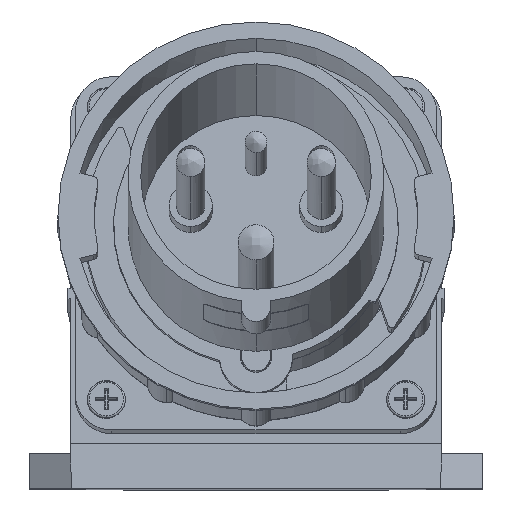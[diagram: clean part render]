
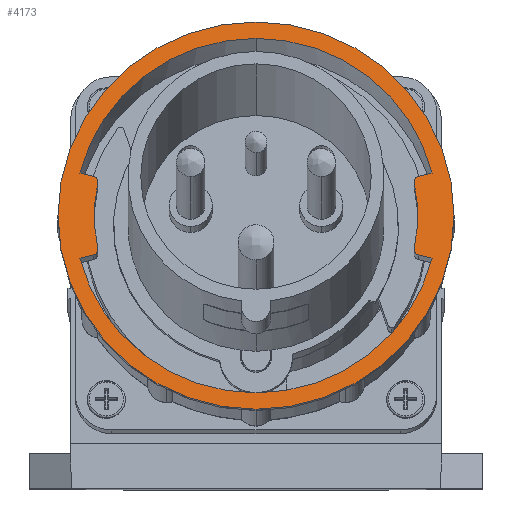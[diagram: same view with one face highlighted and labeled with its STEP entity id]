
A CAD part, top view. The second image highlights one B-rep face of the part: STEP entity #4173.
In plain terms, the highlighted planar face has unit normal (0, 0.208, 0.978).
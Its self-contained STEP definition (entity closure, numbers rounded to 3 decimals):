
#37 = CARTESIAN_POINT ( 'NONE',  ( 43.571, 66.053, 39.131 ) ) ;
#38 = CARTESIAN_POINT ( 'NONE',  ( 43.571, 84.224, 35.272 ) ) ;
#390 = CARTESIAN_POINT ( 'NONE',  ( -43.571, 84.224, 35.272 ) ) ;
#391 = CARTESIAN_POINT ( 'NONE',  ( -43.571, 66.053, 39.131 ) ) ;
#392 = CARTESIAN_POINT ( 'NONE',  ( -44.678, 85.955, 34.904 ) ) ;
#393 = CARTESIAN_POINT ( 'NONE',  ( 48.487, 86.877, 34.708 ) ) ;
#394 = CARTESIAN_POINT ( 'NONE',  ( 44.678, 85.955, 34.904 ) ) ;
#395 = CARTESIAN_POINT ( 'NONE',  ( 44.678, 64.323, 39.498 ) ) ;
#396 = CARTESIAN_POINT ( 'NONE',  ( 48.487, 63.401, 39.694 ) ) ;
#397 = CARTESIAN_POINT ( 'NONE',  ( -44.678, 64.323, 39.498 ) ) ;
#914 = CARTESIAN_POINT ( 'NONE',  ( 0., 75.139, 37.201 ) ) ;
#916 = DIRECTION ( 'NONE',  ( 0., 0.208, 0.978 ) ) ;
#918 = DIRECTION ( 'NONE',  ( 0., -0.978, 0.208 ) ) ;
#1093 = EDGE_LOOP ( 'NONE', ( #3452, #3454, #3453, #3455, #3456, #3458, #3457, #3459, #3460, #3462, #3461, #3463, #3464, #3465 ) ) ;
#1095 = EDGE_LOOP ( 'NONE', ( #3467, #3466 ) ) ;
#1637 = VERTEX_POINT ( 'NONE', #6103 ) ;
#1638 = VERTEX_POINT ( 'NONE', #6104 ) ;
#1641 = VERTEX_POINT ( 'NONE', #6107 ) ;
#1642 = VERTEX_POINT ( 'NONE', #6108 ) ;
#1645 = VERTEX_POINT ( 'NONE', #6111 ) ;
#1646 = VERTEX_POINT ( 'NONE', #6112 ) ;
#1902 = VERTEX_POINT ( 'NONE', #37 ) ;
#1903 = VERTEX_POINT ( 'NONE', #38 ) ;
#2255 = VERTEX_POINT ( 'NONE', #390 ) ;
#2256 = VERTEX_POINT ( 'NONE', #391 ) ;
#2257 = VERTEX_POINT ( 'NONE', #392 ) ;
#2258 = VERTEX_POINT ( 'NONE', #393 ) ;
#2259 = VERTEX_POINT ( 'NONE', #394 ) ;
#2260 = VERTEX_POINT ( 'NONE', #395 ) ;
#2261 = VERTEX_POINT ( 'NONE', #396 ) ;
#2262 = VERTEX_POINT ( 'NONE', #397 ) ;
#3353 = EDGE_CURVE ( 'NONE', #1646, #1645, #4652, .T. ) ;
#3452 = ORIENTED_EDGE ( 'NONE', *, *, #4067, .F. ) ;
#3453 = ORIENTED_EDGE ( 'NONE', *, *, #4068, .F. ) ;
#3454 = ORIENTED_EDGE ( 'NONE', *, *, #4066, .T. ) ;
#3455 = ORIENTED_EDGE ( 'NONE', *, *, #3703, .F. ) ;
#3456 = ORIENTED_EDGE ( 'NONE', *, *, #4069, .F. ) ;
#3457 = ORIENTED_EDGE ( 'NONE', *, *, #4071, .T. ) ;
#3458 = ORIENTED_EDGE ( 'NONE', *, *, #4070, .F. ) ;
#3459 = ORIENTED_EDGE ( 'NONE', *, *, #16178, .F. ) ;
#3460 = ORIENTED_EDGE ( 'NONE', *, *, #4072, .T. ) ;
#3461 = ORIENTED_EDGE ( 'NONE', *, *, #4074, .F. ) ;
#3462 = ORIENTED_EDGE ( 'NONE', *, *, #4073, .F. ) ;
#3463 = ORIENTED_EDGE ( 'NONE', *, *, #3695, .F. ) ;
#3464 = ORIENTED_EDGE ( 'NONE', *, *, #4075, .F. ) ;
#3465 = ORIENTED_EDGE ( 'NONE', *, *, #4077, .T. ) ;
#3466 = ORIENTED_EDGE ( 'NONE', *, *, #4065, .T. ) ;
#3467 = ORIENTED_EDGE ( 'NONE', *, *, #3353, .T. ) ;
#3695 = EDGE_CURVE ( 'NONE', #1641, #1642, #4682, .T. ) ;
#3703 = EDGE_CURVE ( 'NONE', #1637, #1638, #4686, .T. ) ;
#4065 = EDGE_CURVE ( 'NONE', #1645, #1646, #4771, .T. ) ;
#4066 = EDGE_CURVE ( 'NONE', #2255, #2257, #4772, .T. ) ;
#4067 = EDGE_CURVE ( 'NONE', #2255, #2256, #4773, .T. ) ;
#4068 = EDGE_CURVE ( 'NONE', #1638, #2257, #8168, .T. ) ;
#4069 = EDGE_CURVE ( 'NONE', #2258, #1637, #4774, .T. ) ;
#4070 = EDGE_CURVE ( 'NONE', #2259, #2258, #8174, .T. ) ;
#4071 = EDGE_CURVE ( 'NONE', #2259, #1903, #4775, .T. ) ;
#4072 = EDGE_CURVE ( 'NONE', #1902, #2260, #4776, .T. ) ;
#4073 = EDGE_CURVE ( 'NONE', #2261, #2260, #8183, .T. ) ;
#4074 = EDGE_CURVE ( 'NONE', #1642, #2261, #4777, .T. ) ;
#4075 = EDGE_CURVE ( 'NONE', #2262, #1641, #8189, .T. ) ;
#4077 = EDGE_CURVE ( 'NONE', #2262, #2256, #4778, .T. ) ;
#4173 = ADVANCED_FACE ( 'NONE', ( #17356, #17295 ), #8540, .F. ) ;
#4652 = CIRCLE ( 'NONE', #15780, 54.55 ) ;
#4682 = CIRCLE ( 'NONE', #15653, 49.95 ) ;
#4686 = CIRCLE ( 'NONE', #15642, 49.95 ) ;
#4771 = CIRCLE ( 'NONE', #10341, 54.55 ) ;
#4772 = CIRCLE ( 'NONE', #10345, 1.5 ) ;
#4773 = CIRCLE ( 'NONE', #10337, 44.55 ) ;
#4774 = CIRCLE ( 'NONE', #10336, 49.95 ) ;
#4775 = CIRCLE ( 'NONE', #10333, 1.5 ) ;
#4776 = CIRCLE ( 'NONE', #10335, 1.5 ) ;
#4777 = CIRCLE ( 'NONE', #10331, 49.95 ) ;
#4778 = CIRCLE ( 'NONE', #10540, 1.5 ) ;
#5071 = CIRCLE ( 'NONE', #12527, 44.55 ) ;
#6103 = CARTESIAN_POINT ( 'NONE',  ( 0., 123.999, 26.824 ) ) ;
#6104 = CARTESIAN_POINT ( 'NONE',  ( -48.487, 86.877, 34.708 ) ) ;
#6107 = CARTESIAN_POINT ( 'NONE',  ( -48.487, 63.401, 39.694 ) ) ;
#6108 = CARTESIAN_POINT ( 'NONE',  ( 0., 26.279, 47.579 ) ) ;
#6111 = CARTESIAN_POINT ( 'NONE',  ( 0., 128.499, 25.868 ) ) ;
#6112 = CARTESIAN_POINT ( 'NONE',  ( 0., 21.779, 48.534 ) ) ;
#6521 = CARTESIAN_POINT ( 'NONE',  ( 0., 75.139, 37.201 ) ) ;
#6537 = DIRECTION ( 'NONE',  ( 0., 0.208, 0.978 ) ) ;
#6538 = DIRECTION ( 'NONE',  ( 0., 0.978, -0.208 ) ) ;
#6551 = CARTESIAN_POINT ( 'NONE',  ( 0., 75.139, 37.201 ) ) ;
#6561 = DIRECTION ( 'NONE',  ( 0., 0.208, 0.978 ) ) ;
#6562 = DIRECTION ( 'NONE',  ( 0., -0.978, 0.208 ) ) ;
#8158 = CARTESIAN_POINT ( 'NONE',  ( 0., 75.139, 37.201 ) ) ;
#8159 = DIRECTION ( 'NONE',  ( 0., 0.208, 0.978 ) ) ;
#8160 = DIRECTION ( 'NONE',  ( 0., -0.978, 0.208 ) ) ;
#8161 = CARTESIAN_POINT ( 'NONE',  ( -45.038, 84.53, 35.207 ) ) ;
#8162 = DIRECTION ( 'NONE',  ( 0., 0.208, 0.978 ) ) ;
#8163 = DIRECTION ( 'NONE',  ( 0., 0.978, -0.208 ) ) ;
#8164 = CARTESIAN_POINT ( 'NONE',  ( 0., 75.139, 37.201 ) ) ;
#8165 = DIRECTION ( 'NONE',  ( 0., 0.208, 0.978 ) ) ;
#8166 = DIRECTION ( 'NONE',  ( 0., -0.978, 0.208 ) ) ;
#8167 = CARTESIAN_POINT ( 'NONE',  ( 0., 75.139, 37.201 ) ) ;
#8168 = LINE ( 'NONE', #8169, #10334 ) ;
#8169 = CARTESIAN_POINT ( 'NONE',  ( -43.245, 85.608, 34.978 ) ) ;
#8170 = DIRECTION ( 'NONE',  ( 0.971, -0.235, 0.05 ) ) ;
#8171 = DIRECTION ( 'NONE',  ( 0., 0.208, 0.978 ) ) ;
#8172 = DIRECTION ( 'NONE',  ( 0., -0.978, 0.208 ) ) ;
#8173 = CARTESIAN_POINT ( 'NONE',  ( 45.038, 84.53, 35.207 ) ) ;
#8174 = LINE ( 'NONE', #8175, #10332 ) ;
#8175 = CARTESIAN_POINT ( 'NONE',  ( 43.245, 85.608, 34.978 ) ) ;
#8176 = DIRECTION ( 'NONE',  ( 0.971, 0.235, -0.05 ) ) ;
#8177 = DIRECTION ( 'NONE',  ( 0., 0.208, 0.978 ) ) ;
#8178 = DIRECTION ( 'NONE',  ( 0., 0.978, -0.208 ) ) ;
#8179 = CARTESIAN_POINT ( 'NONE',  ( 45.038, 65.747, 39.196 ) ) ;
#8180 = DIRECTION ( 'NONE',  ( 0., 0.208, 0.978 ) ) ;
#8181 = DIRECTION ( 'NONE',  ( 0., 0.978, -0.208 ) ) ;
#8182 = CARTESIAN_POINT ( 'NONE',  ( 0., 75.139, 37.201 ) ) ;
#8183 = LINE ( 'NONE', #8184, #10330 ) ;
#8184 = CARTESIAN_POINT ( 'NONE',  ( 43.245, 64.67, 39.425 ) ) ;
#8185 = DIRECTION ( 'NONE',  ( -0.971, 0.235, -0.05 ) ) ;
#8186 = DIRECTION ( 'NONE',  ( 0., 0.208, 0.978 ) ) ;
#8187 = DIRECTION ( 'NONE',  ( 0., 0.978, -0.208 ) ) ;
#8188 = CARTESIAN_POINT ( 'NONE',  ( -45.038, 65.747, 39.196 ) ) ;
#8189 = LINE ( 'NONE', #8190, #10538 ) ;
#8190 = CARTESIAN_POINT ( 'NONE',  ( -43.245, 64.67, 39.425 ) ) ;
#8191 = DIRECTION ( 'NONE',  ( -0.971, -0.235, 0.05 ) ) ;
#8195 = DIRECTION ( 'NONE',  ( 0., 0.208, 0.978 ) ) ;
#8196 = DIRECTION ( 'NONE',  ( 0., 0.978, -0.208 ) ) ;
#8540 = PLANE ( 'NONE',  #17339 ) ;
#8541 = CARTESIAN_POINT ( 'NONE',  ( 0., 128.499, 25.868 ) ) ;
#8542 = DIRECTION ( 'NONE',  ( 0., -0.208, -0.978 ) ) ;
#8543 = DIRECTION ( 'NONE',  ( 0., 0.978, -0.208 ) ) ;
#10330 = VECTOR ( 'NONE', #8185, 1000. ) ;
#10331 = AXIS2_PLACEMENT_3D ( 'NONE', #8182, #8186, #8187 ) ;
#10332 = VECTOR ( 'NONE', #8176, 1000. ) ;
#10333 = AXIS2_PLACEMENT_3D ( 'NONE', #8173, #8177, #8178 ) ;
#10334 = VECTOR ( 'NONE', #8170, 1000. ) ;
#10335 = AXIS2_PLACEMENT_3D ( 'NONE', #8179, #8180, #8181 ) ;
#10336 = AXIS2_PLACEMENT_3D ( 'NONE', #8167, #8171, #8172 ) ;
#10337 = AXIS2_PLACEMENT_3D ( 'NONE', #8164, #8165, #8166 ) ;
#10341 = AXIS2_PLACEMENT_3D ( 'NONE', #8158, #8159, #8160 ) ;
#10345 = AXIS2_PLACEMENT_3D ( 'NONE', #8161, #8162, #8163 ) ;
#10538 = VECTOR ( 'NONE', #8191, 1000. ) ;
#10540 = AXIS2_PLACEMENT_3D ( 'NONE', #8188, #8195, #8196 ) ;
#12527 = AXIS2_PLACEMENT_3D ( 'NONE', #14965, #14966, #14967 ) ;
#14965 = CARTESIAN_POINT ( 'NONE',  ( 0., 75.139, 37.201 ) ) ;
#14966 = DIRECTION ( 'NONE',  ( 0., 0.208, 0.978 ) ) ;
#14967 = DIRECTION ( 'NONE',  ( 0., -0.978, 0.208 ) ) ;
#15642 = AXIS2_PLACEMENT_3D ( 'NONE', #6551, #6561, #6562 ) ;
#15653 = AXIS2_PLACEMENT_3D ( 'NONE', #6521, #6537, #6538 ) ;
#15780 = AXIS2_PLACEMENT_3D ( 'NONE', #914, #916, #918 ) ;
#16178 = EDGE_CURVE ( 'NONE', #1902, #1903, #5071, .T. ) ;
#17295 = FACE_OUTER_BOUND ( 'NONE', #1095, .T. ) ;
#17339 = AXIS2_PLACEMENT_3D ( 'NONE', #8541, #8542, #8543 ) ;
#17356 = FACE_BOUND ( 'NONE', #1093, .T. ) ;
